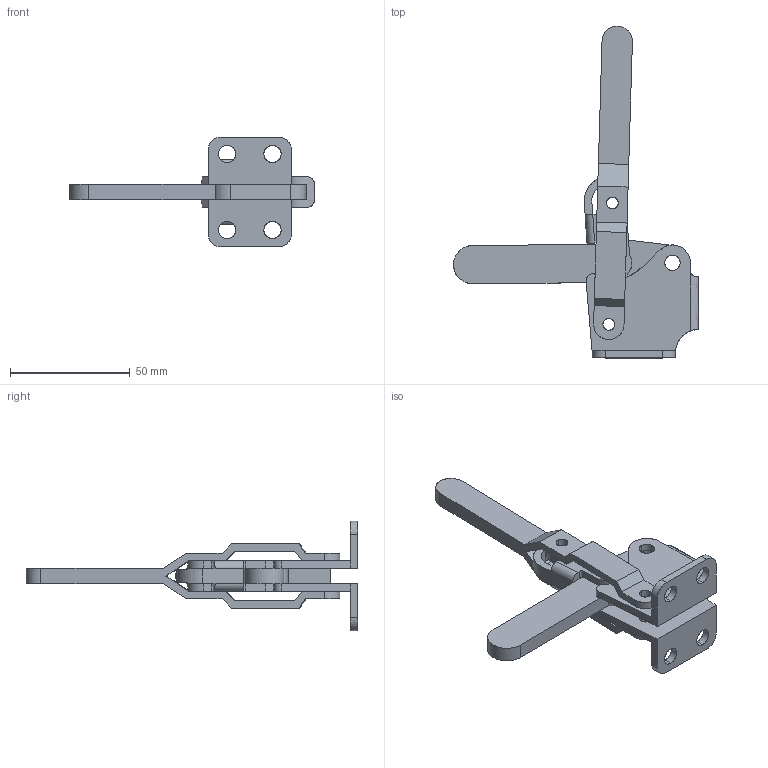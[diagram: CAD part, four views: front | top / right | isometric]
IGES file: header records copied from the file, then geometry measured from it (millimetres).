
Start section: Comment
Global section: file name: 12140.igs; native system:  By Spatial Corp.; preprocessor: XPlus PS/IGES 3.0; author: Author; organization: Title; date: 20050216.171003; units: inch
Bounding box: 102.43 x 138.82 x 46 mm (x, y, z)
Surface area: 25379.4 mm2 (no closed solid volume)
Topology: 0 solids, 0 shells, 156 faces, 872 edges, 872 vertices
Faces by surface type: revolution 79, extrusion 77
